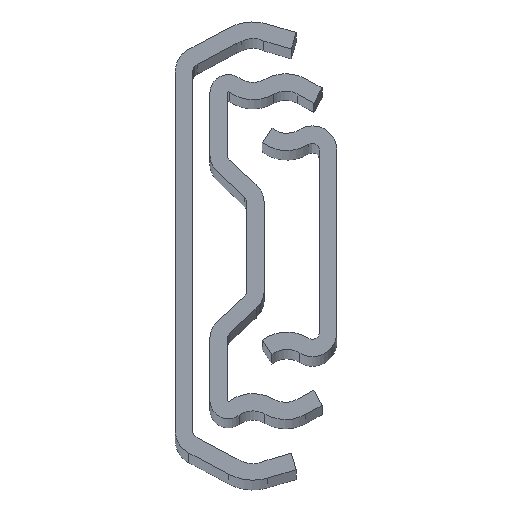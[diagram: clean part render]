
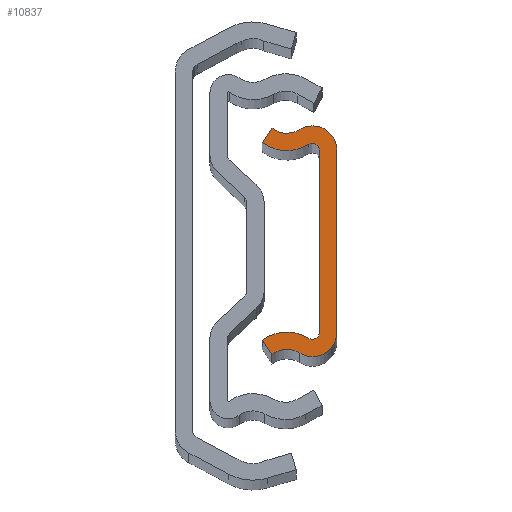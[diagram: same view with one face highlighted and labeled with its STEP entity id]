
A CAD part, top view. The second image highlights one B-rep face of the part: STEP entity #10837.
In plain terms, the highlighted planar face has unit normal (0, 0, 1).
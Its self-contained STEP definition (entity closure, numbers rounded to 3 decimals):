
#33 = ORIENTED_EDGE ( 'NONE', *, *, #15912, .T. ) ;
#120 = ORIENTED_EDGE ( 'NONE', *, *, #4784, .T. ) ;
#231 = ORIENTED_EDGE ( 'NONE', *, *, #5683, .T. ) ;
#1211 = ORIENTED_EDGE ( 'NONE', *, *, #7984, .T. ) ;
#1306 = CARTESIAN_POINT ( 'NONE',  ( 1.506, 10.55, 0. ) ) ;
#1562 = AXIS2_PLACEMENT_3D ( 'NONE', #6297, #3605, #18604 ) ;
#2757 = ORIENTED_EDGE ( 'NONE', *, *, #23284, .T. ) ;
#2798 = CARTESIAN_POINT ( 'NONE',  ( -3.194, 13.089, 0. ) ) ;
#3605 = DIRECTION ( 'NONE',  ( 0., 0., -1. ) ) ;
#3657 = VECTOR ( 'NONE', #19101, 1000. ) ;
#4020 = CARTESIAN_POINT ( 'NONE',  ( -1.47, 15.294, 0. ) ) ;
#4446 = FACE_OUTER_BOUND ( 'NONE', #11125, .T. ) ;
#4784 = EDGE_CURVE ( 'NONE', #21941, #24251, #13485, .T. ) ;
#4826 = EDGE_CURVE ( 'NONE', #24251, #7701, #19694, .T. ) ;
#5562 = EDGE_CURVE ( 'NONE', #32336, #24026, #9141, .T. ) ;
#5683 = EDGE_CURVE ( 'NONE', #27183, #18390, #10094, .T. ) ;
#6297 = CARTESIAN_POINT ( 'NONE',  ( -1.47, -15.294, 0. ) ) ;
#6699 = AXIS2_PLACEMENT_3D ( 'NONE', #28546, #19457, #17295 ) ;
#7032 = VECTOR ( 'NONE', #33311, 1000. ) ;
#7127 = DIRECTION ( 'NONE',  ( 0., 0., 1. ) ) ;
#7191 = DIRECTION ( 'NONE',  ( 0., 0., -1. ) ) ;
#7701 = VERTEX_POINT ( 'NONE', #20479 ) ;
#7984 = EDGE_CURVE ( 'NONE', #36385, #13646, #28540, .T. ) ;
#8258 = CARTESIAN_POINT ( 'NONE',  ( -4.306, -11.422, 0. ) ) ;
#8898 = AXIS2_PLACEMENT_3D ( 'NONE', #20189, #38594, #17519 ) ;
#9141 = CIRCLE ( 'NONE', #6699, 4.8 ) ;
#10094 = CIRCLE ( 'NONE', #11337, 2.8 ) ;
#10134 = ORIENTED_EDGE ( 'NONE', *, *, #22753, .T. ) ;
#10181 = ORIENTED_EDGE ( 'NONE', *, *, #33252, .T. ) ;
#10269 = DIRECTION ( 'NONE',  ( 1., 0., 0. ) ) ;
#10837 = ADVANCED_FACE ( 'Face2', ( #4446 ), #32749, .T. ) ;
#11012 = VERTEX_POINT ( 'NONE', #2798 ) ;
#11125 = EDGE_LOOP ( 'NONE', ( #26382, #19076, #12143, #231, #33, #10181, #38581, #10134, #1211, #25033, #2757, #120 ) ) ;
#11337 = AXIS2_PLACEMENT_3D ( 'NONE', #25289, #7127, #34238 ) ;
#11678 = CARTESIAN_POINT ( 'NONE',  ( -4.306, 11.422, 0. ) ) ;
#12143 = ORIENTED_EDGE ( 'NONE', *, *, #37537, .T. ) ;
#12877 = EDGE_CURVE ( 'NONE', #13646, #21342, #20367, .T. ) ;
#13086 = CARTESIAN_POINT ( 'NONE',  ( -3.194, -13.089, 0. ) ) ;
#13485 = LINE ( 'NONE', #39272, #24944 ) ;
#13646 = VERTEX_POINT ( 'NONE', #27768 ) ;
#13680 = CARTESIAN_POINT ( 'NONE',  ( -1.47, -15.294, 0. ) ) ;
#14061 = DIRECTION ( 'NONE',  ( 0., 1., 0. ) ) ;
#15540 = CARTESIAN_POINT ( 'NONE',  ( 2.306, -10.55, 0. ) ) ;
#15592 = CARTESIAN_POINT ( 'NONE',  ( -4.306, 11.422, 0. ) ) ;
#15617 = LINE ( 'NONE', #11678, #7032 ) ;
#15903 = CIRCLE ( 'NONE', #36519, 2.8 ) ;
#15912 = EDGE_CURVE ( 'NONE', #18390, #11012, #19272, .T. ) ;
#16905 = AXIS2_PLACEMENT_3D ( 'NONE', #28826, #7191, #10269 ) ;
#17295 = DIRECTION ( 'NONE',  ( -1., 0., 0. ) ) ;
#17395 = VECTOR ( 'NONE', #14061, 1000. ) ;
#17519 = DIRECTION ( 'NONE',  ( 1., 0., 0. ) ) ;
#17698 = VERTEX_POINT ( 'NONE', #31270 ) ;
#17842 = AXIS2_PLACEMENT_3D ( 'NONE', #13680, #38762, #26658 ) ;
#18390 = VERTEX_POINT ( 'NONE', #24955 ) ;
#18604 = DIRECTION ( 'NONE',  ( 1., 0., 0. ) ) ;
#19076 = ORIENTED_EDGE ( 'NONE', *, *, #22765, .T. ) ;
#19101 = DIRECTION ( 'NONE',  ( 0., -1., 0. ) ) ;
#19272 = CIRCLE ( 'NONE', #37643, 2.8 ) ;
#19457 = DIRECTION ( 'NONE',  ( 0., 0., 1. ) ) ;
#19612 = CARTESIAN_POINT ( 'NONE',  ( 1.506, -10.55, 0. ) ) ;
#19694 = CIRCLE ( 'NONE', #1562, 2.8 ) ;
#19870 = DIRECTION ( 'NONE',  ( 0., 0., 1. ) ) ;
#20189 = CARTESIAN_POINT ( 'NONE',  ( -1.47, -15.294, 0. ) ) ;
#20367 = CIRCLE ( 'NONE', #16905, 0.8 ) ;
#20479 = CARTESIAN_POINT ( 'NONE',  ( 0.018, -12.922, 0. ) ) ;
#20846 = CARTESIAN_POINT ( 'NONE',  ( 1.081, 11.228, 0. ) ) ;
#21342 = VERTEX_POINT ( 'NONE', #35868 ) ;
#21821 = CARTESIAN_POINT ( 'NONE',  ( 2.306, 10.55, 0. ) ) ;
#21941 = VERTEX_POINT ( 'NONE', #8258 ) ;
#22753 = EDGE_CURVE ( 'NONE', #24026, #36385, #35496, .T. ) ;
#22765 = EDGE_CURVE ( 'NONE', #7701, #17698, #15903, .T. ) ;
#23284 = EDGE_CURVE ( 'NONE', #21342, #21941, #31161, .T. ) ;
#24026 = VERTEX_POINT ( 'NONE', #20846 ) ;
#24251 = VERTEX_POINT ( 'NONE', #13086 ) ;
#24944 = VECTOR ( 'NONE', #27179, 1000. ) ;
#24955 = CARTESIAN_POINT ( 'NONE',  ( 0.018, 12.922, 0. ) ) ;
#25033 = ORIENTED_EDGE ( 'NONE', *, *, #12877, .T. ) ;
#25289 = CARTESIAN_POINT ( 'NONE',  ( 1.506, 10.55, 0. ) ) ;
#26382 = ORIENTED_EDGE ( 'NONE', *, *, #4826, .T. ) ;
#26658 = DIRECTION ( 'NONE',  ( 1., 0., 0. ) ) ;
#27179 = DIRECTION ( 'NONE',  ( 0.555, -0.832, 0. ) ) ;
#27183 = VERTEX_POINT ( 'NONE', #30949 ) ;
#27768 = CARTESIAN_POINT ( 'NONE',  ( 2.306, -10.55, 0. ) ) ;
#28540 = LINE ( 'NONE', #15540, #3657 ) ;
#28546 = CARTESIAN_POINT ( 'NONE',  ( -1.47, 15.294, 0. ) ) ;
#28826 = CARTESIAN_POINT ( 'NONE',  ( 1.506, -10.55, 0. ) ) ;
#28836 = DIRECTION ( 'NONE',  ( -1., 0., 0. ) ) ;
#29268 = CARTESIAN_POINT ( 'NONE',  ( 4.306, -10.55, 0. ) ) ;
#30949 = CARTESIAN_POINT ( 'NONE',  ( 4.306, 10.55, 0. ) ) ;
#31161 = CIRCLE ( 'NONE', #17842, 4.8 ) ;
#31270 = CARTESIAN_POINT ( 'NONE',  ( 4.306, -10.55, 0. ) ) ;
#32156 = DIRECTION ( 'NONE',  ( 1., 0., 0. ) ) ;
#32336 = VERTEX_POINT ( 'NONE', #15592 ) ;
#32749 = PLANE ( 'NONE',  #8898 ) ;
#33252 = EDGE_CURVE ( 'NONE', #11012, #32336, #15617, .T. ) ;
#33311 = DIRECTION ( 'NONE',  ( -0.555, -0.832, 0. ) ) ;
#34238 = DIRECTION ( 'NONE',  ( -1., 0., 0. ) ) ;
#34443 = AXIS2_PLACEMENT_3D ( 'NONE', #1306, #35106, #28836 ) ;
#34492 = DIRECTION ( 'NONE',  ( 0., 0., -1. ) ) ;
#34629 = DIRECTION ( 'NONE',  ( -1., 0., 0. ) ) ;
#35106 = DIRECTION ( 'NONE',  ( 0., 0., -1. ) ) ;
#35496 = CIRCLE ( 'NONE', #34443, 0.8 ) ;
#35868 = CARTESIAN_POINT ( 'NONE',  ( 1.081, -11.228, 0. ) ) ;
#36385 = VERTEX_POINT ( 'NONE', #21821 ) ;
#36519 = AXIS2_PLACEMENT_3D ( 'NONE', #19612, #19870, #32156 ) ;
#37537 = EDGE_CURVE ( 'NONE', #17698, #27183, #37921, .T. ) ;
#37643 = AXIS2_PLACEMENT_3D ( 'NONE', #4020, #34492, #34629 ) ;
#37921 = LINE ( 'NONE', #29268, #17395 ) ;
#38581 = ORIENTED_EDGE ( 'NONE', *, *, #5562, .T. ) ;
#38594 = DIRECTION ( 'NONE',  ( 0., 0., 1. ) ) ;
#38762 = DIRECTION ( 'NONE',  ( 0., 0., 1. ) ) ;
#39272 = CARTESIAN_POINT ( 'NONE',  ( -4.306, -11.422, 0. ) ) ;
